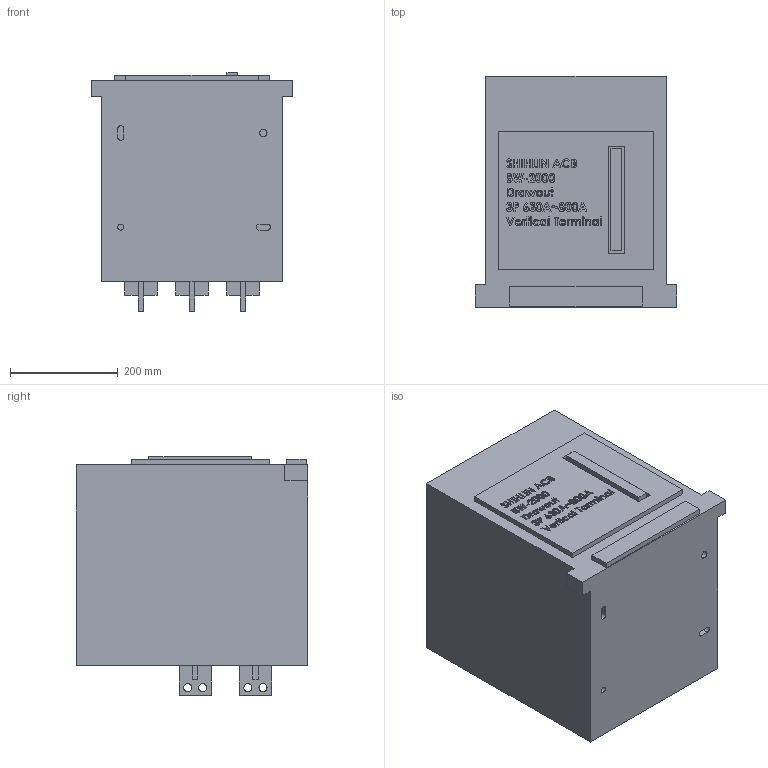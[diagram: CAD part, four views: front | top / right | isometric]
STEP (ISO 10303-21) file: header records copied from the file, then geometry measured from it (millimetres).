
FILE_DESCRIPTION (( 'STEP AP203' ), '1' );
FILE_NAME ('BW-2000-Drawout-3P-630-800A-Vertical Terminal.STEP', '2016-11-03T01:04:55', ( '' ), ( '' ), 'SwSTEP 2.0', 'SolidWorks 2015', '' );
FILE_SCHEMA (( 'CONFIG_CONTROL_DESIGN' ));
Length unit declared in the file: millimetre
Products named in the file (1): BW-2000-Drawout-3P-630-800A-Vertical Terminal
Bounding box: 375 x 430 x 443.5 mm (x, y, z)
Volume: 54886380.2 mm3; surface area: 989328.4 mm2
Topology: 1 solids, 1 shells, 794 faces, 2103 edges, 1402 vertices
Faces by surface type: plane 485, bspline 276, cylinder 33
Entity records: 39010 total; most frequent: CARTESIAN_POINT 20984, ORIENTED_EDGE 4206, DIRECTION 2655, EDGE_CURVE 2103, VECTOR 1485, LINE 1485, VERTEX_POINT 1402, EDGE_LOOP 909
